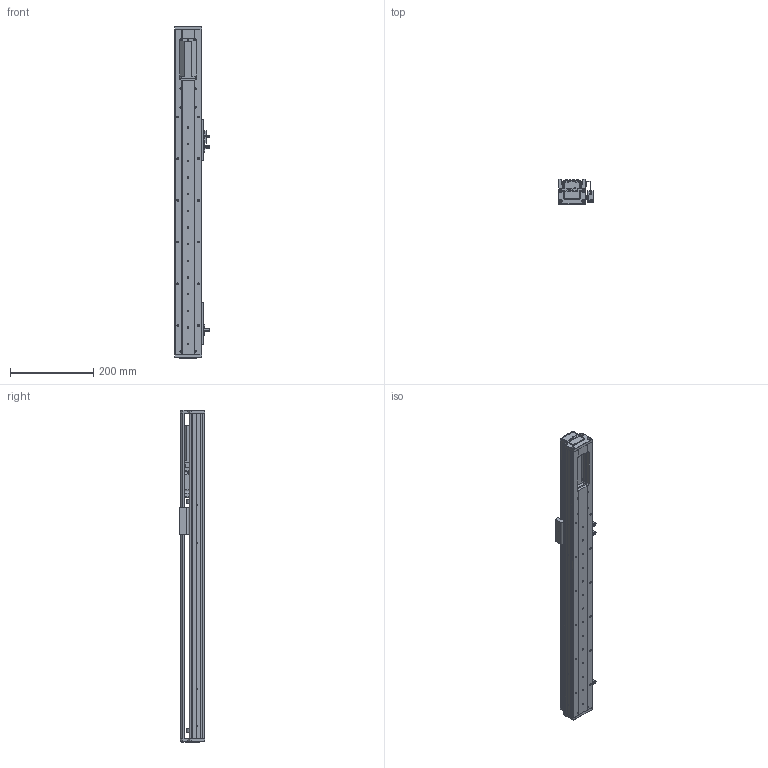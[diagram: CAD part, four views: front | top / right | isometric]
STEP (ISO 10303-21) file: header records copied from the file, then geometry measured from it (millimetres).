
FILE_DESCRIPTION (( 'STEP AP203' ), '1' );
FILE_NAME ('RY60-L1210-300-IK.SLDASM_450.step', '2021-02-22T05:12:07', ( '盈信电脑' ), ( '东莞市道滘镇水果街19号' ), 'SwSTEP 2.0', 'SolidWorks 2012', '' );
FILE_SCHEMA (( 'CONFIG_CONTROL_DESIGN' ));
Length unit declared in the file: millimetre
Products named in the file (12): RY60-内置电机板100W（m3）; 侂狟100W; RY60-L1210-300-IK.SLDASM_450; 滅袉蝶18-10; 672嫖萇羲壽假蚾釱; RY80俋离覜茼え; RY60綴裔啣; 覜茼ん672; RY60臏賑輸; RY60萇儂傷盓傅釱; RY60-300倰第裔啣-IK_450; RY60-300倰第菁釱-IK_450
Assembly tree (18 placements, depth 2):
  RY60-L1210-300-IK.SLDASM_450
    RY60-300倰第菁釱-IK_450
    RY60臏賑輸
    RY60-300倰第裔啣-IK_450
    RY60萇儂傷盓傅釱
    672嫖萇羲壽假蚾釱  x2
    RY60綴裔啣  x2
    覜茼ん672  x3
    RY80俋离覜茼え
    侂狟100W
    滅袉蝶18-10  x4
    RY60-内置电机板100W（m3）
Bounding box: 83.7 x 61 x 796 mm (x, y, z)
Volume: 1017790.4 mm3; surface area: 497638.7 mm2
Topology: 18 solids, 18 shells, 1502 faces, 4203 edges, 2721 vertices
Faces by surface type: plane 801, cylinder 591, cone 94, bspline 16
Entity records: 40812 total; most frequent: CARTESIAN_POINT 9802, ORIENTED_EDGE 6310, DIRECTION 6016, EDGE_CURVE 3155, VERTEX_POINT 2067, AXIS2_PLACEMENT_3D 2035, VECTOR 1946, LINE 1946
